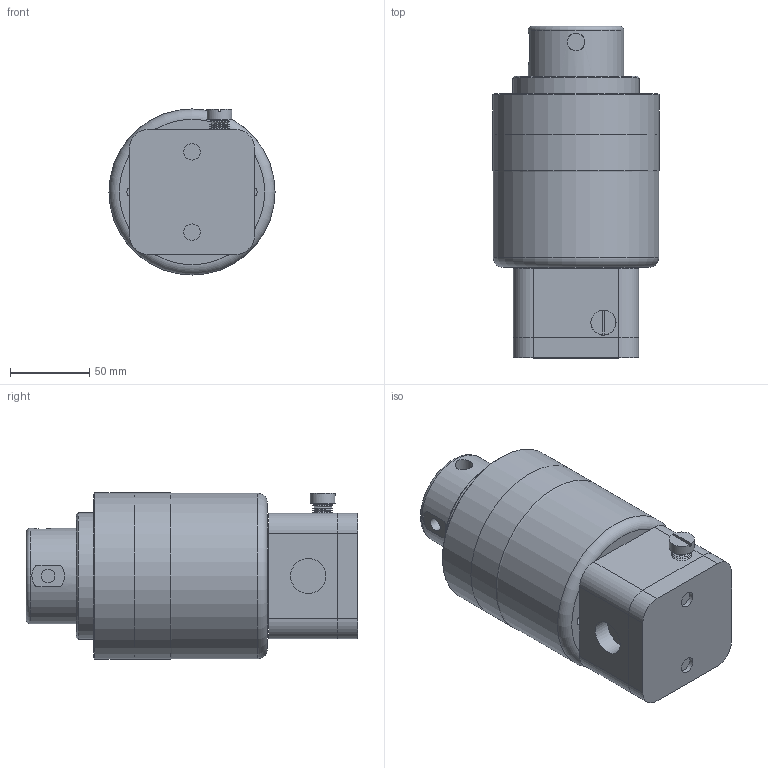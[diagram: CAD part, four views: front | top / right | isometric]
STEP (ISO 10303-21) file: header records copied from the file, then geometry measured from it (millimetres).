
FILE_DESCRIPTION (( 'STEP AP214' ), '1' );
FILE_NAME ('DBA030 INLINE.STEP', '2013-04-24T14:59:15', ( '' ), ( '' ), 'SwSTEP 2.0', 'SolidWorks 2012', '' );
FILE_SCHEMA (( 'AUTOMOTIVE_DESIGN' ));
Length unit declared in the file: inch
Products named in the file (1): DBA030 INLINE
Bounding box: 105.08 x 209.96 x 105.08 mm (x, y, z)
Volume: 1792418.6 mm3; surface area: 166159.3 mm2
Topology: 11 solids, 11 shells, 241 faces, 479 edges, 298 vertices
Faces by surface type: cone 82, plane 81, cylinder 75, torus 3
Full cylindrical faces by diameter (mm): 3.251 x16, 6.35 x2, 6.775 x3, 8.611 x1, 10.264 x15, 10.312 x2, 11.125 x1, 11.43 x3, 15.875 x1, 18.923 x3, 22.225 x2, 60.325 x1, 62.332 x1, 62.611 x1, 80.01 x1, 94.412 x1, 104.775 x1, 105.08 x1
Entity records: 5560 total; most frequent: DIRECTION 1012, CARTESIAN_POINT 937, ORIENTED_EDGE 606, AXIS2_PLACEMENT_3D 470, EDGE_LOOP 420, EDGE_CURVE 303, FACE_OUTER_BOUND 300, VERTEX_POINT 263
